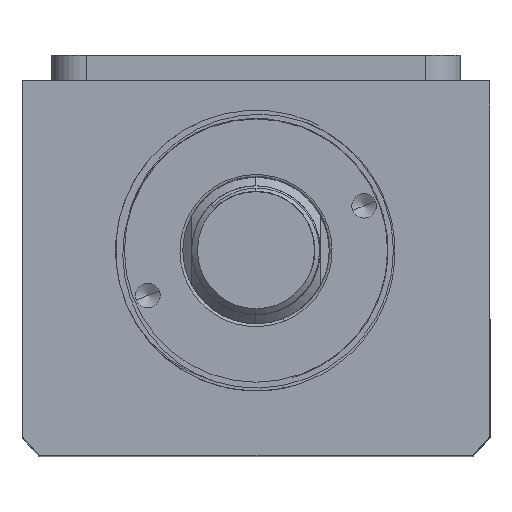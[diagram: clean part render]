
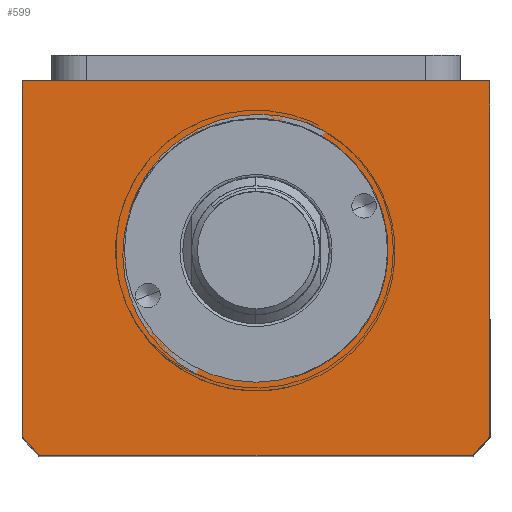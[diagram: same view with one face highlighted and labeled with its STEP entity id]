
A CAD part, top view. The second image highlights one B-rep face of the part: STEP entity #599.
In plain terms, the highlighted planar face has unit normal (0, 0, 1).
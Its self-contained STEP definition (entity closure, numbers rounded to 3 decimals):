
#55 = DIRECTION ( 'NONE',  ( -1., 0., 0. ) ) ;
#364 = EDGE_LOOP ( 'NONE', ( #17181, #17135 ) ) ;
#540 = VECTOR ( 'NONE', #15571, 1000. ) ;
#552 = EDGE_CURVE ( 'NONE', #13117, #5116, #1673, .T. ) ;
#599 = ADVANCED_FACE ( 'NONE', ( #1250, #11639 ), #3095, .T. ) ;
#607 = AXIS2_PLACEMENT_3D ( 'NONE', #3153, #8498, #8435 ) ;
#948 = DIRECTION ( 'NONE',  ( 1., 0., 0. ) ) ;
#1250 = FACE_BOUND ( 'NONE', #364, .T. ) ;
#1673 = CIRCLE ( 'NONE', #12236, 51. ) ;
#2225 = CIRCLE ( 'NONE', #8585, 22.5 ) ;
#2403 = CARTESIAN_POINT ( 'NONE',  ( -40., -75.507, 160. ) ) ;
#2430 = DIRECTION ( 'NONE',  ( 1., 0., 0. ) ) ;
#2791 = ORIENTED_EDGE ( 'NONE', *, *, #9942, .T. ) ;
#2860 = LINE ( 'NONE', #2403, #9628 ) ;
#2969 = CARTESIAN_POINT ( 'NONE',  ( 40., -11.507, 160. ) ) ;
#3095 = PLANE ( 'NONE',  #607 ) ;
#3153 = CARTESIAN_POINT ( 'NONE',  ( 0., 0., 160. ) ) ;
#3994 = CARTESIAN_POINT ( 'NONE',  ( -37.094, -75.507, 160. ) ) ;
#4195 = CIRCLE ( 'NONE', #12883, 51. ) ;
#4316 = CARTESIAN_POINT ( 'NONE',  ( 0., -40.507, 160. ) ) ;
#4600 = VERTEX_POINT ( 'NONE', #10069 ) ;
#4899 = EDGE_CURVE ( 'NONE', #17496, #4600, #5892, .T. ) ;
#5116 = VERTEX_POINT ( 'NONE', #3994 ) ;
#5139 = ORIENTED_EDGE ( 'NONE', *, *, #11573, .T. ) ;
#5273 = CARTESIAN_POINT ( 'NONE',  ( 40., -72.145, 160. ) ) ;
#5619 = DIRECTION ( 'NONE',  ( 0., 0., 1. ) ) ;
#5892 = CIRCLE ( 'NONE', #15962, 22.5 ) ;
#5990 = ORIENTED_EDGE ( 'NONE', *, *, #12937, .T. ) ;
#6417 = VERTEX_POINT ( 'NONE', #5273 ) ;
#6808 = CARTESIAN_POINT ( 'NONE',  ( 37.094, -75.507, 160. ) ) ;
#6940 = CARTESIAN_POINT ( 'NONE',  ( 22.5, -40.507, 160. ) ) ;
#7071 = CARTESIAN_POINT ( 'NONE',  ( 0., -40.507, 160. ) ) ;
#7790 = LINE ( 'NONE', #15632, #540 ) ;
#7841 = CARTESIAN_POINT ( 'NONE',  ( 0., -40.507, 160. ) ) ;
#8198 = VECTOR ( 'NONE', #55, 1000. ) ;
#8200 = CARTESIAN_POINT ( 'NONE',  ( -40., -11.507, 160. ) ) ;
#8423 = DIRECTION ( 'NONE',  ( 1., 0., 0. ) ) ;
#8435 = DIRECTION ( 'NONE',  ( 1., 0., 0. ) ) ;
#8498 = DIRECTION ( 'NONE',  ( 0., 0., 1. ) ) ;
#8585 = AXIS2_PLACEMENT_3D ( 'NONE', #7841, #17303, #9195 ) ;
#9074 = CARTESIAN_POINT ( 'NONE',  ( 40., -11.507, 160. ) ) ;
#9075 = DIRECTION ( 'NONE',  ( 0., 0., 1. ) ) ;
#9193 = VECTOR ( 'NONE', #9705, 1000. ) ;
#9195 = DIRECTION ( 'NONE',  ( 1., 0., 0. ) ) ;
#9599 = LINE ( 'NONE', #2969, #9193 ) ;
#9628 = VECTOR ( 'NONE', #14584, 1000. ) ;
#9705 = DIRECTION ( 'NONE',  ( 0., 1., 0. ) ) ;
#9846 = EDGE_LOOP ( 'NONE', ( #13482, #16687, #2791, #5990, #5139, #11035 ) ) ;
#9931 = CARTESIAN_POINT ( 'NONE',  ( -40., -72.145, 160. ) ) ;
#9942 = EDGE_CURVE ( 'NONE', #5116, #15885, #2860, .T. ) ;
#10069 = CARTESIAN_POINT ( 'NONE',  ( -22.5, -40.507, 160. ) ) ;
#10291 = EDGE_CURVE ( 'NONE', #4600, #17496, #2225, .T. ) ;
#11035 = ORIENTED_EDGE ( 'NONE', *, *, #13822, .T. ) ;
#11353 = LINE ( 'NONE', #8200, #8198 ) ;
#11573 = EDGE_CURVE ( 'NONE', #6417, #16932, #9599, .T. ) ;
#11639 = FACE_OUTER_BOUND ( 'NONE', #9846, .T. ) ;
#12173 = CARTESIAN_POINT ( 'NONE',  ( -40., -11.507, 160. ) ) ;
#12236 = AXIS2_PLACEMENT_3D ( 'NONE', #4316, #5619, #2430 ) ;
#12883 = AXIS2_PLACEMENT_3D ( 'NONE', #7071, #16522, #8423 ) ;
#12937 = EDGE_CURVE ( 'NONE', #15885, #6417, #4195, .T. ) ;
#13117 = VERTEX_POINT ( 'NONE', #9931 ) ;
#13482 = ORIENTED_EDGE ( 'NONE', *, *, #15159, .T. ) ;
#13822 = EDGE_CURVE ( 'NONE', #16932, #15826, #11353, .T. ) ;
#14584 = DIRECTION ( 'NONE',  ( 1., 0., 0. ) ) ;
#15159 = EDGE_CURVE ( 'NONE', #15826, #13117, #7790, .T. ) ;
#15571 = DIRECTION ( 'NONE',  ( 0., -1., 0. ) ) ;
#15632 = CARTESIAN_POINT ( 'NONE',  ( -40., -11.507, 160. ) ) ;
#15826 = VERTEX_POINT ( 'NONE', #12173 ) ;
#15885 = VERTEX_POINT ( 'NONE', #6808 ) ;
#15962 = AXIS2_PLACEMENT_3D ( 'NONE', #17192, #9075, #948 ) ;
#16522 = DIRECTION ( 'NONE',  ( 0., 0., 1. ) ) ;
#16687 = ORIENTED_EDGE ( 'NONE', *, *, #552, .T. ) ;
#16932 = VERTEX_POINT ( 'NONE', #9074 ) ;
#17135 = ORIENTED_EDGE ( 'NONE', *, *, #10291, .F. ) ;
#17181 = ORIENTED_EDGE ( 'NONE', *, *, #4899, .F. ) ;
#17192 = CARTESIAN_POINT ( 'NONE',  ( 0., -40.507, 160. ) ) ;
#17303 = DIRECTION ( 'NONE',  ( 0., 0., 1. ) ) ;
#17496 = VERTEX_POINT ( 'NONE', #6940 ) ;
